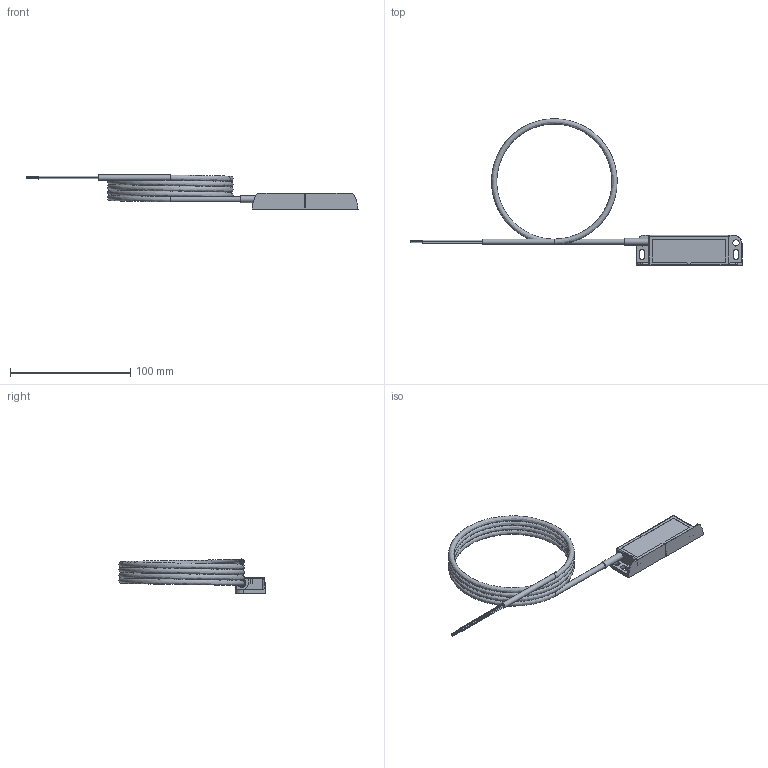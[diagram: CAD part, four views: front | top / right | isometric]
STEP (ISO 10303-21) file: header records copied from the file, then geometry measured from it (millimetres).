
FILE_DESCRIPTION(/* description */ (''),/* implementation_level */ '2;1');
FILE_NAME(/* name */ 'V:/a TO PERSON/Vilius/MC88/Catalogue/CADs/MC88CH2ORA2.step',/* time_stamp */ '2020-10-27T09:40:32+02:00',/* author */ (''),/* organization */ (''),/* preprocessor_version */ 'ST-DEVELOPER v18.1',/* originating_system */ 'Autodesk Translation Framework v9.3.0.1241',/* authorisation */ '');
FILE_SCHEMA (('AUTOMOTIVE_DESIGN { 1 0 10303 214 3 1 1 }'));
Length unit declared in the file: millimetre
Products named in the file (1): MC88CH2ORA2
Bounding box: 276 x 121.7 x 28.3 mm (x, y, z)
Volume: 45273.7 mm3; surface area: 36655.7 mm2
Topology: 12 solids, 12 shells, 171 faces, 413 edges, 269 vertices
Faces by surface type: plane 117, cylinder 35, bspline 9, cone 8, sphere 2
Full cylindrical faces by diameter (mm): 0.7 x8, 1.3 x4, 4.4 x3, 5.6 x1, 7 x2
Entity records: 5982 total; most frequent: CARTESIAN_POINT 1809, DIRECTION 827, ORIENTED_EDGE 826, EDGE_CURVE 413, LINE 311, VECTOR 311, VERTEX_POINT 269, AXIS2_PLACEMENT_3D 258
